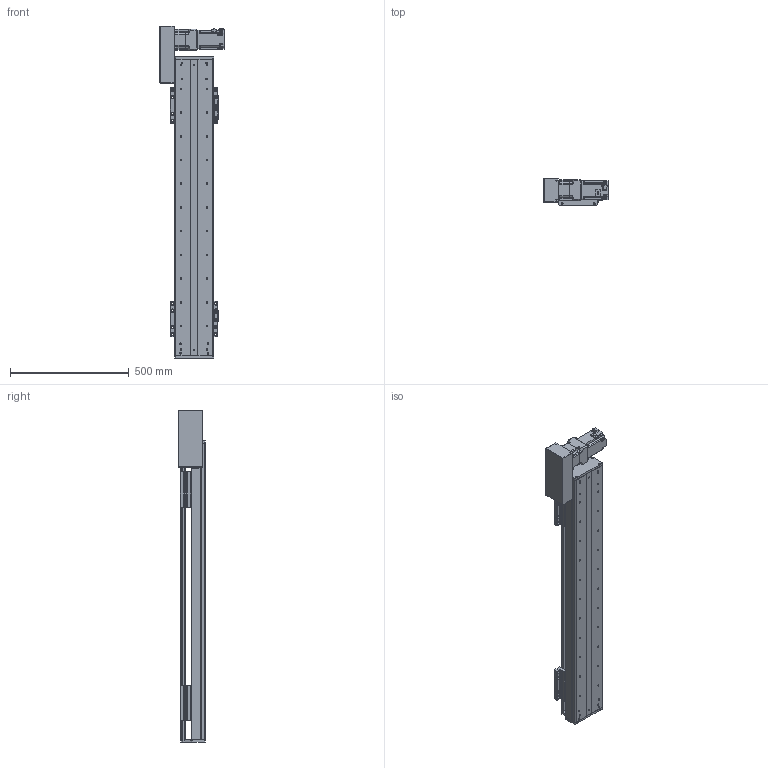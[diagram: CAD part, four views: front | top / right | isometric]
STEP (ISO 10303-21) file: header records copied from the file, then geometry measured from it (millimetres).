
FILE_DESCRIPTION(/* description */ (''),/* implementation_level */ '2;1');
FILE_NAME(/* name */ 'C:\Users\PC\Desktop\3D도면\STEP\DSB165-L7G-W0900-R.stp',/* time_stamp */ '2018-06-25T14:31:11+09:00',/* author */ ('PC'),/* organization */ (''),/* preprocessor_version */ 'ST-DEVELOPER v16.5',/* originating_system */ 'Autodesk Inventor 2017',/* authorisation */ '');
FILE_SCHEMA (('AUTOMOTIVE_DESIGN { 1 0 10303 214 3 1 1 }'));
Length unit declared in the file: millimetre
Products named in the file (12): DSB165-L; DSR165-BASE_S; hg-kr73_; ab0901-p0401300102; 11-DBS165 BELT COVER; DBS165-COVER; DBS165-COVER_1; DBS165-UP COVER; DBS165-TABLE(MSA20S); DSR126-SENSOR DOG; pm-y65_step; SENSOR BRACKET(EE-SX674A)
Assembly tree (16 placements, depth 2):
  DSB165-L
    DSR165-BASE_S
    hg-kr73_
    ab0901-p0401300102
    11-DBS165 BELT COVER
    DBS165-COVER
    DBS165-COVER_1
    DBS165-UP COVER
    DBS165-TABLE(MSA20S)  x2
    DSR126-SENSOR DOG
    pm-y65_step  x3
    SENSOR BRACKET(EE-SX674A)  x3
Bounding box: 270 x 115 x 1400 mm (x, y, z)
Volume: 8409918.7 mm3; surface area: 1945836.5 mm2
Topology: 17 solids, 22 shells, 1675 faces, 4495 edges, 2964 vertices
Faces by surface type: plane 926, cylinder 623, cone 114, sphere 8, torus 4
Full cylindrical faces by diameter (mm): 2.459 x20, 3.5 x6, 4.134 x42, 4.5 x18, 5 x27, 5.5 x36, 5.9 x4, 6 x8, 6.6 x14, 6.647 x42, 6.8 x1, 7 x4, 7.6 x4, 8 x1, 8.4 x1, 8.5 x24, 8.7 x1, 9.5 x32, 11 x6, 14 x16, 19 x1, 22 x1, 24 x1, 25 x1, 28 x1, 67 x1, 70 x2, 80 x1
Entity records: 35629 total; most frequent: DIRECTION 6300, CARTESIAN_POINT 6103, ORIENTED_EDGE 5550, EDGE_CURVE 2780, AXIS2_PLACEMENT_3D 2320, VERTEX_POINT 1985, EDGE_LOOP 1747, LINE 1660
